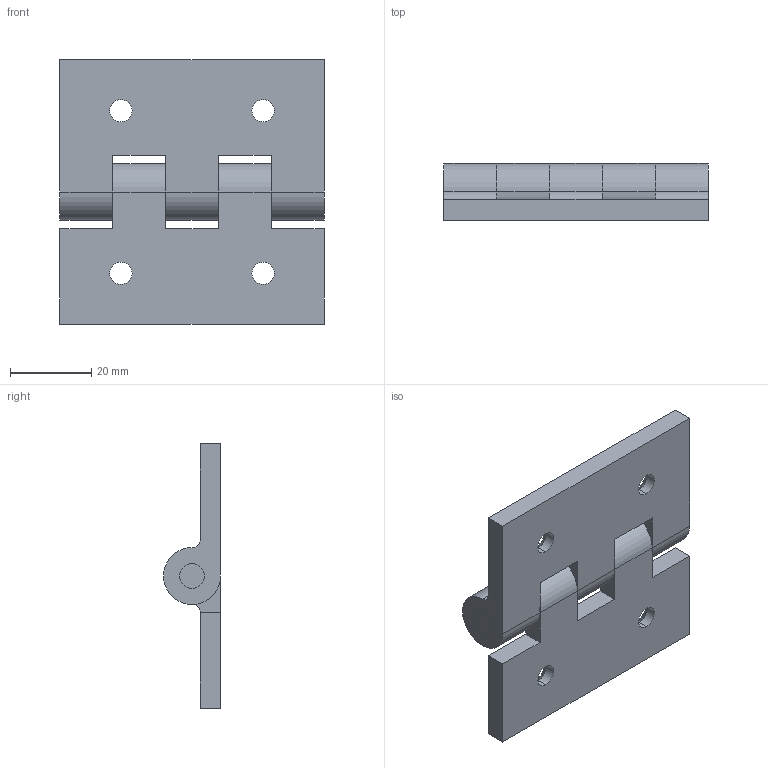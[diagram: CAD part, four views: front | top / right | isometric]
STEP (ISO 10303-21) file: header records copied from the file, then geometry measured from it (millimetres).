
FILE_DESCRIPTION (( 'STEP AP203' ), '1' );
FILE_NAME ('B04-20003.STEP', '2024-10-25T09:15:10', ( '' ), ( '' ), 'SwSTEP 2.0', 'SolidWorks 2021', '' );
FILE_SCHEMA (( 'CONFIG_CONTROL_DESIGN' ));
Length unit declared in the file: millimetre
Products named in the file (4): B04-3-1; B04-3-2; B04-20003; B04軸心6-68
Assembly tree (3 placements, depth 2):
  B04-20003
    B04-3-1
    B04-3-2
    B04軸心6-68
Bounding box: 65 x 14 x 65 mm (x, y, z)
Volume: 25926.1 mm3; surface area: 14553.3 mm2
Topology: 3 solids, 3 shells, 68 faces, 170 edges, 108 vertices
Faces by surface type: cylinder 35, plane 25, cone 8
Entity records: 2494 total; most frequent: DIRECTION 396, CARTESIAN_POINT 352, ORIENTED_EDGE 340, EDGE_CURVE 170, AXIS2_PLACEMENT_3D 152, VERTEX_POINT 108, VECTOR 92, LINE 92
